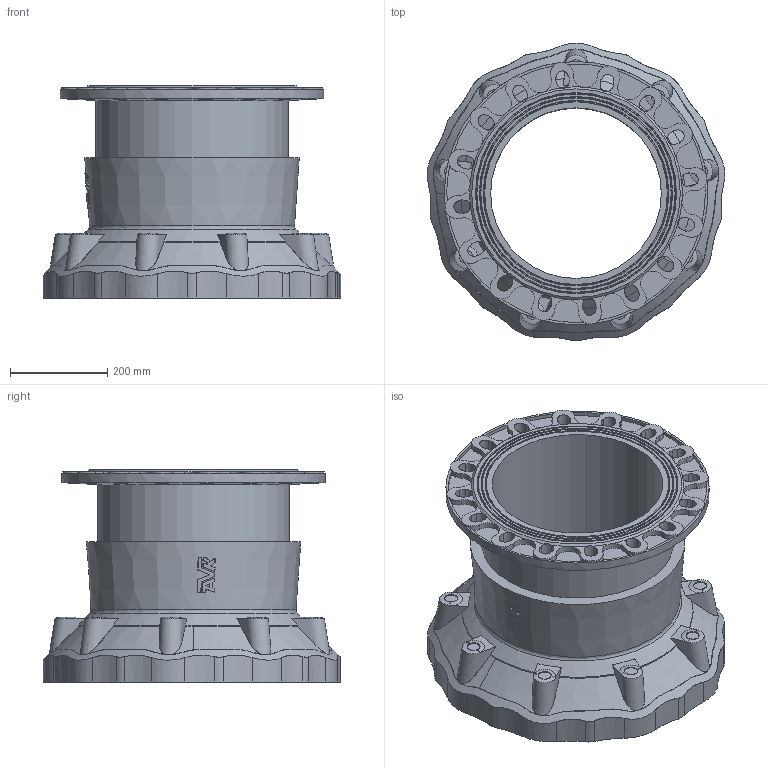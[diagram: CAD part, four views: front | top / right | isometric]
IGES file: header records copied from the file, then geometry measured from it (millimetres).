
Start section: SolidWorks IGES file using analytic representation for surfaces
Global section: file name: \\avksan2\techshare\PBM outline export from Enovia\O_633_00_DN350_AA0.igs; native system: SolidWorks 2012; preprocessor: SolidWorks 2012; author: pbm; date: 180703.074645; units: millimetre
Bounding box: 610.2 x 610.87 x 435.96 mm (x, y, z)
Surface area: 1731909 mm2 (no closed solid volume)
Topology: 0 solids, 0 shells, 580 faces, 3409 edges, 3386 vertices
Faces by surface type: revolution 340, bspline 240
